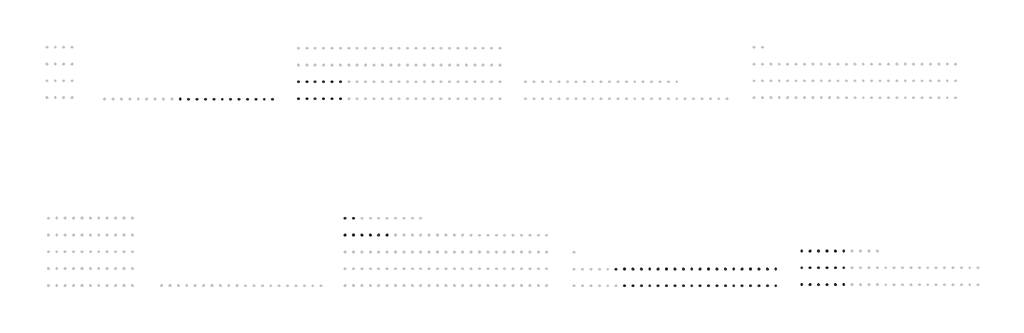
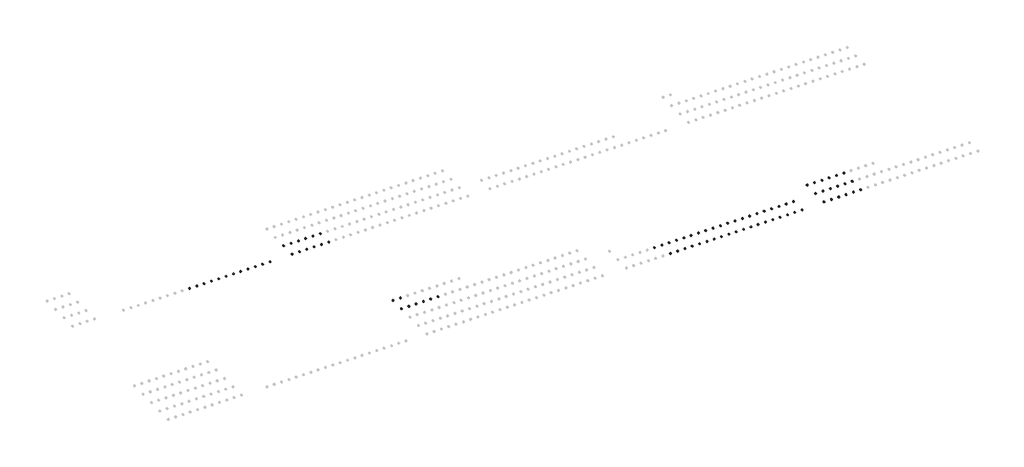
# One storey, part 9 of 18: 89 cable carrier fittings, 62 proxies.
"""IFC4 building model written with IfcOpenShell, lengths in millimetres."""

from ifc_helpers import new_model, si_unit, origin, place, context, project, spatial, transform, mapped, element, save
from components import electrical_fixtures_96b55c73, electrical_fixtures_e14fb297, electrical_fixtures_2a9b6cd9, electrical_fixtures_0dfebb09, electrical_fixtures_43cedca7, electrical_fixtures_1f2eaab9, electrical_fixtures_085c7708, electrical_fixtures_4662bf55, electrical_fixtures_95d1e48e, electrical_fixtures_3626f2ef, electrical_fixtures_4d005b9e, cable_carrier_fitting_a64d4eba

model = new_model("IFC4")

# Units and contexts
model_context = context("Model", 3, world=origin())
ifc_project = project(units=[si_unit("LENGTHUNIT", "METRE", prefix="MILLI")], contexts=[model_context])

# Site, building, storey
site = spatial("IfcSite", under=ifc_project)
building = spatial("IfcBuilding", under=site)
storey = spatial("IfcBuildingStorey", under=building, Name="Этаж 01", Elevation=0.0)

# Proxies
placement = place(None, origin())
electrical_fixtures_shape = electrical_fixtures_96b55c73(model_context)
element("IfcBuildingElementProxy", 1, Name="IEK_Brite_Механизм розетки 230В : 230 В PE+шт.+кр. IP44_РСбш10-3-44-БрА", ObjectType="IEK_Brite_Механизм розетки 230В : 230 В PE+шт.+кр. IP44_РСбш10-3-44-БрА", at=placement, inside=storey, context=model_context, shape_type="MappedRepresentation", body=[
    mapped(electrical_fixtures_shape, transform((39990.6847594, -15405.0, 0.0), x_axis=(1.0, 0.0, 0.0), y_axis=(0.0, 1.0, 0.0), z_axis=(0.0, 0.0, 1.0))),
])
element("IfcBuildingElementProxy", 2, Name="IEK_Brite_Механизм розетки 230В : 230 В PE+шт.+кр. IP44_РСбш10-3-44-БрС", ObjectType="IEK_Brite_Механизм розетки 230В : 230 В PE+шт.+кр. IP44_РСбш10-3-44-БрС", at=placement, inside=storey, context=model_context, shape_type="MappedRepresentation", body=[
    mapped(electrical_fixtures_shape, transform((40390.6847594, -15405.0, 0.0), x_axis=(1.0, 0.0, 0.0), y_axis=(0.0, 1.0, 0.0), z_axis=(0.0, 0.0, 1.0))),
])
element("IfcBuildingElementProxy", 3, Name="IEK_Brite_Механизм розетки 230В : 230 В PE+шт.+кр. IP44_РСбш10-3-44-БрГ", ObjectType="IEK_Brite_Механизм розетки 230В : 230 В PE+шт.+кр. IP44_РСбш10-3-44-БрГ", at=placement, inside=storey, context=model_context, shape_type="MappedRepresentation", body=[
    mapped(electrical_fixtures_shape, transform((40790.6847594, -15405.0, 0.0), x_axis=(1.0, 0.0, 0.0), y_axis=(0.0, 1.0, 0.0), z_axis=(0.0, 0.0, 1.0))),
])
element("IfcBuildingElementProxy", 4, Name="IEK_Brite_Механизм розетки 230В : 230 В PE+шт.+кр. IP44_РСбш10-3-44-БрМ", ObjectType="IEK_Brite_Механизм розетки 230В : 230 В PE+шт.+кр. IP44_РСбш10-3-44-БрМ", at=placement, inside=storey, context=model_context, shape_type="MappedRepresentation", body=[
    mapped(electrical_fixtures_shape, transform((41190.6847594, -15405.0, 0.0), x_axis=(1.0, 0.0, 0.0), y_axis=(0.0, 1.0, 0.0), z_axis=(0.0, 0.0, 1.0))),
])
element("IfcBuildingElementProxy", 5, Name="IEK_Brite_Механизм розетки 230В : 230 В PE+шт.+кр. IP44_РСбш10-3-44-БрТБ", ObjectType="IEK_Brite_Механизм розетки 230В : 230 В PE+шт.+кр. IP44_РСбш10-3-44-БрТБ", at=placement, inside=storey, context=model_context, shape_type="MappedRepresentation", body=[
    mapped(electrical_fixtures_shape, transform((41590.6847594, -15405.0, 0.0), x_axis=(1.0, 0.0, 0.0), y_axis=(0.0, 1.0, 0.0), z_axis=(0.0, 0.0, 1.0))),
])
element("IfcBuildingElementProxy", 6, Name="IEK_Brite_Механизм розетки 230В : 230 В PE+шт.+кр._РСбш10-3-БрБ", ObjectType="IEK_Brite_Механизм розетки 230В : 230 В PE+шт.+кр._РСбш10-3-БрБ", at=placement, inside=storey, context=model_context, shape_type="MappedRepresentation", body=[
    mapped(electrical_fixtures_shape, transform((41990.6847594, -15405.0, 0.0), x_axis=(1.0, 0.0, 0.0), y_axis=(0.0, 1.0, 0.0), z_axis=(0.0, 0.0, 1.0))),
])
electrical_fixtures_2_shape = electrical_fixtures_e14fb297(model_context)
element("IfcBuildingElementProxy", 7, Name="IEK_Brite_Механизм розетки 230В : USB A+C_РЮ11-1-БрА", ObjectType="IEK_Brite_Механизм розетки 230В : USB A+C_РЮ11-1-БрА", at=placement, inside=storey, context=model_context, shape_type="MappedRepresentation", body=[
    mapped(electrical_fixtures_2_shape, transform((39990.6847594, -14605.0, 0.0), x_axis=(1.0, 0.0, 0.0), y_axis=(0.0, 1.0, 0.0), z_axis=(0.0, 0.0, 1.0))),
])
element("IfcBuildingElementProxy", 8, Name="IEK_Brite_Механизм розетки 230В : USB A+C_РЮ11-1-БрБ", ObjectType="IEK_Brite_Механизм розетки 230В : USB A+C_РЮ11-1-БрБ", at=placement, inside=storey, context=model_context, shape_type="MappedRepresentation", body=[
    mapped(electrical_fixtures_2_shape, transform((40390.6847594, -14605.0, 0.0), x_axis=(1.0, 0.0, 0.0), y_axis=(0.0, 1.0, 0.0), z_axis=(0.0, 0.0, 1.0))),
])
electrical_fixtures_3_shape = electrical_fixtures_2a9b6cd9(model_context)
element("IfcBuildingElementProxy", 9, Name="IEK_Brite_Механизм розетки информационной : RJ45+RJ11_РК/Т12-БрС", ObjectType="IEK_Brite_Механизм розетки информационной : RJ45+RJ11_РК/Т12-БрС", at=placement, inside=storey, context=model_context, shape_type="MappedRepresentation", body=[
    mapped(electrical_fixtures_3_shape, transform((53296.7386318, -17813.0, 0.0), x_axis=(1.0, 0.0, 0.0), y_axis=(0.0, 1.0, 0.0), z_axis=(0.0, 0.0, 1.0))),
])
element("IfcBuildingElementProxy", 10, Name="IEK_Brite_Механизм розетки информационной : RJ45+RJ11_РК/Т12-БрТБ", ObjectType="IEK_Brite_Механизм розетки информационной : RJ45+RJ11_РК/Т12-БрТБ", at=placement, inside=storey, context=model_context, shape_type="MappedRepresentation", body=[
    mapped(electrical_fixtures_3_shape, transform((53696.7386318, -17813.0, 0.0), x_axis=(1.0, 0.0, 0.0), y_axis=(0.0, 1.0, 0.0), z_axis=(0.0, 0.0, 1.0))),
])
element("IfcBuildingElementProxy", 11, Name="IEK_Brite_Механизм розетки информационной : RJ45+RJ11_РК/Т12-БрЧ", ObjectType="IEK_Brite_Механизм розетки информационной : RJ45+RJ11_РК/Т12-БрЧ", at=placement, inside=storey, context=model_context, shape_type="MappedRepresentation", body=[
    mapped(electrical_fixtures_3_shape, transform((54096.7386318, -17813.0, 0.0), x_axis=(1.0, 0.0, 0.0), y_axis=(0.0, 1.0, 0.0), z_axis=(0.0, 0.0, 1.0))),
])
element("IfcBuildingElementProxy", 12, Name="IEK_Brite_Механизм розетки информационной : RJ45+RJ11_РК/Т12-БрШ", ObjectType="IEK_Brite_Механизм розетки информационной : RJ45+RJ11_РК/Т12-БрШ", at=placement, inside=storey, context=model_context, shape_type="MappedRepresentation", body=[
    mapped(electrical_fixtures_3_shape, transform((54496.7386318, -17813.0, 0.0), x_axis=(1.0, 0.0, 0.0), y_axis=(0.0, 1.0, 0.0), z_axis=(0.0, 0.0, 1.0))),
])
electrical_fixtures_4_shape = electrical_fixtures_0dfebb09(model_context)
element("IfcBuildingElementProxy", 13, Name="IEK_Brite_Механизм розетки информационной : RJ45 к5E_РК10-БрБ", ObjectType="IEK_Brite_Механизм розетки информационной : RJ45 к5E_РК10-БрБ", at=placement, inside=storey, context=model_context, shape_type="MappedRepresentation", body=[
    mapped(electrical_fixtures_4_shape, transform((53296.7386318, -17013.0, 0.0), x_axis=(1.0, 0.0, 0.0), y_axis=(0.0, 1.0, 0.0), z_axis=(0.0, 0.0, 1.0))),
])
element("IfcBuildingElementProxy", 14, Name="IEK_Brite_Механизм розетки информационной : RJ45 к5E_РК10-БрГ", ObjectType="IEK_Brite_Механизм розетки информационной : RJ45 к5E_РК10-БрГ", at=placement, inside=storey, context=model_context, shape_type="MappedRepresentation", body=[
    mapped(electrical_fixtures_4_shape, transform((53696.7386318, -17013.0, 0.0), x_axis=(1.0, 0.0, 0.0), y_axis=(0.0, 1.0, 0.0), z_axis=(0.0, 0.0, 1.0))),
])
element("IfcBuildingElementProxy", 15, Name="IEK_Brite_Механизм розетки информационной : RJ45 к5E_РК10-БрЖ", ObjectType="IEK_Brite_Механизм розетки информационной : RJ45 к5E_РК10-БрЖ", at=placement, inside=storey, context=model_context, shape_type="MappedRepresentation", body=[
    mapped(electrical_fixtures_4_shape, transform((54096.7386318, -17013.0, 0.0), x_axis=(1.0, 0.0, 0.0), y_axis=(0.0, 1.0, 0.0), z_axis=(0.0, 0.0, 1.0))),
])
element("IfcBuildingElementProxy", 16, Name="IEK_Brite_Механизм розетки информационной : RJ45 к5E_РК10-БрКр", ObjectType="IEK_Brite_Механизм розетки информационной : RJ45 к5E_РК10-БрКр", at=placement, inside=storey, context=model_context, shape_type="MappedRepresentation", body=[
    mapped(electrical_fixtures_4_shape, transform((54496.7386318, -17013.0, 0.0), x_axis=(1.0, 0.0, 0.0), y_axis=(0.0, 1.0, 0.0), z_axis=(0.0, 0.0, 1.0))),
])
element("IfcBuildingElementProxy", 17, Name="IEK_Brite_Механизм розетки информационной : RJ45 к5E_РК10-БрМ", ObjectType="IEK_Brite_Механизм розетки информационной : RJ45 к5E_РК10-БрМ", at=placement, inside=storey, context=model_context, shape_type="MappedRepresentation", body=[
    mapped(electrical_fixtures_4_shape, transform((54896.7386318, -17013.0, 0.0), x_axis=(1.0, 0.0, 0.0), y_axis=(0.0, 1.0, 0.0), z_axis=(0.0, 0.0, 1.0))),
])
element("IfcBuildingElementProxy", 18, Name="IEK_Brite_Механизм розетки информационной : RJ45 к5E_РК10-БрС", ObjectType="IEK_Brite_Механизм розетки информационной : RJ45 к5E_РК10-БрС", at=placement, inside=storey, context=model_context, shape_type="MappedRepresentation", body=[
    mapped(electrical_fixtures_4_shape, transform((55296.7386318, -17013.0, 0.0), x_axis=(1.0, 0.0, 0.0), y_axis=(0.0, 1.0, 0.0), z_axis=(0.0, 0.0, 1.0))),
])
element("IfcBuildingElementProxy", 19, Name="IEK_Brite_Механизм розетки информационной : RJ45 к5E_РК10-БрТБ", ObjectType="IEK_Brite_Механизм розетки информационной : RJ45 к5E_РК10-БрТБ", at=placement, inside=storey, context=model_context, shape_type="MappedRepresentation", body=[
    mapped(electrical_fixtures_4_shape, transform((55696.7386318, -17013.0, 0.0), x_axis=(1.0, 0.0, 0.0), y_axis=(0.0, 1.0, 0.0), z_axis=(0.0, 0.0, 1.0))),
])
element("IfcBuildingElementProxy", 20, Name="IEK_Brite_Механизм розетки информационной : RJ45 к5E_РК10-БрЧ", ObjectType="IEK_Brite_Механизм розетки информационной : RJ45 к5E_РК10-БрЧ", at=placement, inside=storey, context=model_context, shape_type="MappedRepresentation", body=[
    mapped(electrical_fixtures_4_shape, transform((56096.7386318, -17013.0, 0.0), x_axis=(1.0, 0.0, 0.0), y_axis=(0.0, 1.0, 0.0), z_axis=(0.0, 0.0, 1.0))),
])
element("IfcBuildingElementProxy", 21, Name="IEK_Brite_Механизм розетки информационной : RJ45 к5E_РК10-БрШ", ObjectType="IEK_Brite_Механизм розетки информационной : RJ45 к5E_РК10-БрШ", at=placement, inside=storey, context=model_context, shape_type="MappedRepresentation", body=[
    mapped(electrical_fixtures_4_shape, transform((56496.7386318, -17013.0, 0.0), x_axis=(1.0, 0.0, 0.0), y_axis=(0.0, 1.0, 0.0), z_axis=(0.0, 0.0, 1.0))),
])
element("IfcBuildingElementProxy", 22, Name="IEK_Brite_Механизм розетки информационной : RJ45 к6_РК11-БрА", ObjectType="IEK_Brite_Механизм розетки информационной : RJ45 к6_РК11-БрА", at=placement, inside=storey, context=model_context, shape_type="MappedRepresentation", body=[
    mapped(electrical_fixtures_4_shape, transform((56896.7386318, -17013.0, 0.0), x_axis=(1.0, 0.0, 0.0), y_axis=(0.0, 1.0, 0.0), z_axis=(0.0, 0.0, 1.0))),
])
element("IfcBuildingElementProxy", 23, Name="IEK_Brite_Механизм розетки информационной : RJ45 к6_РК11-БрБ", ObjectType="IEK_Brite_Механизм розетки информационной : RJ45 к6_РК11-БрБ", at=placement, inside=storey, context=model_context, shape_type="MappedRepresentation", body=[
    mapped(electrical_fixtures_4_shape, transform((57296.7386318, -17013.0, 0.0), x_axis=(1.0, 0.0, 0.0), y_axis=(0.0, 1.0, 0.0), z_axis=(0.0, 0.0, 1.0))),
])
element("IfcBuildingElementProxy", 24, Name="IEK_Brite_Механизм розетки информационной : RJ45 к6_РК11-БрГ", ObjectType="IEK_Brite_Механизм розетки информационной : RJ45 к6_РК11-БрГ", at=placement, inside=storey, context=model_context, shape_type="MappedRepresentation", body=[
    mapped(electrical_fixtures_4_shape, transform((57696.7386318, -17013.0, 0.0), x_axis=(1.0, 0.0, 0.0), y_axis=(0.0, 1.0, 0.0), z_axis=(0.0, 0.0, 1.0))),
])
element("IfcBuildingElementProxy", 25, Name="IEK_Brite_Механизм розетки информационной : RJ45 к6_РК11-БрЖ", ObjectType="IEK_Brite_Механизм розетки информационной : RJ45 к6_РК11-БрЖ", at=placement, inside=storey, context=model_context, shape_type="MappedRepresentation", body=[
    mapped(electrical_fixtures_4_shape, transform((58096.7386318, -17013.0, 0.0), x_axis=(1.0, 0.0, 0.0), y_axis=(0.0, 1.0, 0.0), z_axis=(0.0, 0.0, 1.0))),
])
element("IfcBuildingElementProxy", 26, Name="IEK_Brite_Механизм розетки информационной : RJ45 к6_РК11-БрКр", ObjectType="IEK_Brite_Механизм розетки информационной : RJ45 к6_РК11-БрКр", at=placement, inside=storey, context=model_context, shape_type="MappedRepresentation", body=[
    mapped(electrical_fixtures_4_shape, transform((58496.7386318, -17013.0, 0.0), x_axis=(1.0, 0.0, 0.0), y_axis=(0.0, 1.0, 0.0), z_axis=(0.0, 0.0, 1.0))),
])
element("IfcBuildingElementProxy", 27, Name="IEK_Brite_Механизм розетки информационной : RJ45 к6_РК11-БрМ", ObjectType="IEK_Brite_Механизм розетки информационной : RJ45 к6_РК11-БрМ", at=placement, inside=storey, context=model_context, shape_type="MappedRepresentation", body=[
    mapped(electrical_fixtures_4_shape, transform((58896.7386318, -17013.0, 0.0), x_axis=(1.0, 0.0, 0.0), y_axis=(0.0, 1.0, 0.0), z_axis=(0.0, 0.0, 1.0))),
])
element("IfcBuildingElementProxy", 28, Name="IEK_Brite_Механизм розетки информационной : RJ45 к6_РК11-БрС", ObjectType="IEK_Brite_Механизм розетки информационной : RJ45 к6_РК11-БрС", at=placement, inside=storey, context=model_context, shape_type="MappedRepresentation", body=[
    mapped(electrical_fixtures_4_shape, transform((59296.7386318, -17013.0, 0.0), x_axis=(1.0, 0.0, 0.0), y_axis=(0.0, 1.0, 0.0), z_axis=(0.0, 0.0, 1.0))),
])
element("IfcBuildingElementProxy", 29, Name="IEK_Brite_Механизм розетки информационной : RJ45 к6_РК11-БрТБ", ObjectType="IEK_Brite_Механизм розетки информационной : RJ45 к6_РК11-БрТБ", at=placement, inside=storey, context=model_context, shape_type="MappedRepresentation", body=[
    mapped(electrical_fixtures_4_shape, transform((59696.7386318, -17013.0, 0.0), x_axis=(1.0, 0.0, 0.0), y_axis=(0.0, 1.0, 0.0), z_axis=(0.0, 0.0, 1.0))),
])
element("IfcBuildingElementProxy", 30, Name="IEK_Brite_Механизм розетки информационной : RJ45 к6_РК11-БрЧ", ObjectType="IEK_Brite_Механизм розетки информационной : RJ45 к6_РК11-БрЧ", at=placement, inside=storey, context=model_context, shape_type="MappedRepresentation", body=[
    mapped(electrical_fixtures_4_shape, transform((60096.7386318, -17013.0, 0.0), x_axis=(1.0, 0.0, 0.0), y_axis=(0.0, 1.0, 0.0), z_axis=(0.0, 0.0, 1.0))),
])
element("IfcBuildingElementProxy", 31, Name="IEK_Brite_Механизм розетки информационной : RJ45 к6_РК11-БрШ", ObjectType="IEK_Brite_Механизм розетки информационной : RJ45 к6_РК11-БрШ", at=placement, inside=storey, context=model_context, shape_type="MappedRepresentation", body=[
    mapped(electrical_fixtures_4_shape, transform((60496.7386318, -17013.0, 0.0), x_axis=(1.0, 0.0, 0.0), y_axis=(0.0, 1.0, 0.0), z_axis=(0.0, 0.0, 1.0))),
])
electrical_fixtures_5_shape = electrical_fixtures_43cedca7(model_context)
element("IfcBuildingElementProxy", 32, Name="IEK_Brite_Механизм розетки мультимедийной : АС_РА10-БрА", ObjectType="IEK_Brite_Механизм розетки мультимедийной : АС_РА10-БрА", at=placement, inside=storey, context=model_context, shape_type="MappedRepresentation", body=[
    mapped(electrical_fixtures_5_shape, transform((61736.4805226, -17760.0, 0.0), x_axis=(1.0, 0.0, 0.0), y_axis=(0.0, 1.0, 0.0), z_axis=(0.0, 0.0, 1.0))),
])
element("IfcBuildingElementProxy", 33, Name="IEK_Brite_Механизм розетки мультимедийной : АС_РА10-БрБ", ObjectType="IEK_Brite_Механизм розетки мультимедийной : АС_РА10-БрБ", at=placement, inside=storey, context=model_context, shape_type="MappedRepresentation", body=[
    mapped(electrical_fixtures_5_shape, transform((62136.4805226, -17760.0, 0.0), x_axis=(1.0, 0.0, 0.0), y_axis=(0.0, 1.0, 0.0), z_axis=(0.0, 0.0, 1.0))),
])
element("IfcBuildingElementProxy", 34, Name="IEK_Brite_Механизм розетки мультимедийной : АС_РА10-БрГ", ObjectType="IEK_Brite_Механизм розетки мультимедийной : АС_РА10-БрГ", at=placement, inside=storey, context=model_context, shape_type="MappedRepresentation", body=[
    mapped(electrical_fixtures_5_shape, transform((62536.4805226, -17760.0, 0.0), x_axis=(1.0, 0.0, 0.0), y_axis=(0.0, 1.0, 0.0), z_axis=(0.0, 0.0, 1.0))),
])
element("IfcBuildingElementProxy", 35, Name="IEK_Brite_Механизм розетки мультимедийной : АС_РА10-БрЖ", ObjectType="IEK_Brite_Механизм розетки мультимедийной : АС_РА10-БрЖ", at=placement, inside=storey, context=model_context, shape_type="MappedRepresentation", body=[
    mapped(electrical_fixtures_5_shape, transform((62936.4805226, -17760.0, 0.0), x_axis=(1.0, 0.0, 0.0), y_axis=(0.0, 1.0, 0.0), z_axis=(0.0, 0.0, 1.0))),
])
element("IfcBuildingElementProxy", 36, Name="IEK_Brite_Механизм розетки мультимедийной : АС_РА10-БрКр", ObjectType="IEK_Brite_Механизм розетки мультимедийной : АС_РА10-БрКр", at=placement, inside=storey, context=model_context, shape_type="MappedRepresentation", body=[
    mapped(electrical_fixtures_5_shape, transform((63336.4805226, -17760.0, 0.0), x_axis=(1.0, 0.0, 0.0), y_axis=(0.0, 1.0, 0.0), z_axis=(0.0, 0.0, 1.0))),
])
element("IfcBuildingElementProxy", 37, Name="IEK_Brite_Механизм розетки мультимедийной : АС_РА10-БрМ", ObjectType="IEK_Brite_Механизм розетки мультимедийной : АС_РА10-БрМ", at=placement, inside=storey, context=model_context, shape_type="MappedRepresentation", body=[
    mapped(electrical_fixtures_5_shape, transform((63736.4805226, -17760.0, 0.0), x_axis=(1.0, 0.0, 0.0), y_axis=(0.0, 1.0, 0.0), z_axis=(0.0, 0.0, 1.0))),
])
electrical_fixtures_6_shape = electrical_fixtures_1f2eaab9(model_context)
element("IfcBuildingElementProxy", 38, Name="IEK_Brite_Механизм розетки мультимедийной : TV О_РТВ11-0-БрМ", ObjectType="IEK_Brite_Механизм розетки мультимедийной : TV О_РТВ11-0-БрМ", at=placement, inside=storey, context=model_context, shape_type="MappedRepresentation", body=[
    mapped(electrical_fixtures_6_shape, transform((61736.4805226, -16960.0, 0.0), x_axis=(1.0, 0.0, 0.0), y_axis=(0.0, 1.0, 0.0), z_axis=(0.0, 0.0, 1.0))),
])
element("IfcBuildingElementProxy", 39, Name="IEK_Brite_Механизм розетки мультимедийной : TV О_РТВ11-0-БрС", ObjectType="IEK_Brite_Механизм розетки мультимедийной : TV О_РТВ11-0-БрС", at=placement, inside=storey, context=model_context, shape_type="MappedRepresentation", body=[
    mapped(electrical_fixtures_6_shape, transform((62136.4805226, -16960.0, 0.0), x_axis=(1.0, 0.0, 0.0), y_axis=(0.0, 1.0, 0.0), z_axis=(0.0, 0.0, 1.0))),
])
element("IfcBuildingElementProxy", 40, Name="IEK_Brite_Механизм розетки мультимедийной : TV О_РТВ11-0-БрТБ", ObjectType="IEK_Brite_Механизм розетки мультимедийной : TV О_РТВ11-0-БрТБ", at=placement, inside=storey, context=model_context, shape_type="MappedRepresentation", body=[
    mapped(electrical_fixtures_6_shape, transform((62536.4805226, -16960.0, 0.0), x_axis=(1.0, 0.0, 0.0), y_axis=(0.0, 1.0, 0.0), z_axis=(0.0, 0.0, 1.0))),
])
element("IfcBuildingElementProxy", 41, Name="IEK_Brite_Механизм розетки мультимедийной : TV О_РТВ11-0-БрЧ", ObjectType="IEK_Brite_Механизм розетки мультимедийной : TV О_РТВ11-0-БрЧ", at=placement, inside=storey, context=model_context, shape_type="MappedRepresentation", body=[
    mapped(electrical_fixtures_6_shape, transform((62936.4805226, -16960.0, 0.0), x_axis=(1.0, 0.0, 0.0), y_axis=(0.0, 1.0, 0.0), z_axis=(0.0, 0.0, 1.0))),
])
element("IfcBuildingElementProxy", 42, Name="IEK_Brite_Механизм розетки мультимедийной : TV О_РТВ11-0-БрШ", ObjectType="IEK_Brite_Механизм розетки мультимедийной : TV О_РТВ11-0-БрШ", at=placement, inside=storey, context=model_context, shape_type="MappedRepresentation", body=[
    mapped(electrical_fixtures_6_shape, transform((63336.4805226, -16960.0, 0.0), x_axis=(1.0, 0.0, 0.0), y_axis=(0.0, 1.0, 0.0), z_axis=(0.0, 0.0, 1.0))),
])
element("IfcBuildingElementProxy", 43, Name="IEK_Brite_Механизм розетки мультимедийной : TV П_РТВ10-0-БрА", ObjectType="IEK_Brite_Механизм розетки мультимедийной : TV П_РТВ10-0-БрА", at=placement, inside=storey, context=model_context, shape_type="MappedRepresentation", body=[
    mapped(electrical_fixtures_6_shape, transform((63736.4805226, -16960.0, 0.0), x_axis=(1.0, 0.0, 0.0), y_axis=(0.0, 1.0, 0.0), z_axis=(0.0, 0.0, 1.0))),
])
electrical_fixtures_7_shape = electrical_fixtures_085c7708(model_context)
element("IfcBuildingElementProxy", 44, Name="IEK_Brite_Механизм розетки мультимедийной : TV+SAT-РТВ/РСп12-БрБ", ObjectType="IEK_Brite_Механизм розетки мультимедийной : TV+SAT-РТВ/РСп12-БрБ", at=placement, inside=storey, context=model_context, shape_type="MappedRepresentation", body=[
    mapped(electrical_fixtures_7_shape, transform((61736.4805226, -16160.0, 0.0), x_axis=(1.0, 0.0, 0.0), y_axis=(0.0, 1.0, 0.0), z_axis=(0.0, 0.0, 1.0))),
])
element("IfcBuildingElementProxy", 45, Name="IEK_Brite_Механизм розетки мультимедийной : TV+SAT-РТВ/РСп12-БрГ", ObjectType="IEK_Brite_Механизм розетки мультимедийной : TV+SAT-РТВ/РСп12-БрГ", at=placement, inside=storey, context=model_context, shape_type="MappedRepresentation", body=[
    mapped(electrical_fixtures_7_shape, transform((62136.4805226, -16160.0, 0.0), x_axis=(1.0, 0.0, 0.0), y_axis=(0.0, 1.0, 0.0), z_axis=(0.0, 0.0, 1.0))),
])
element("IfcBuildingElementProxy", 46, Name="IEK_Brite_Механизм розетки мультимедийной : TV+SAT-РТВ/РСп12-БрЖ", ObjectType="IEK_Brite_Механизм розетки мультимедийной : TV+SAT-РТВ/РСп12-БрЖ", at=placement, inside=storey, context=model_context, shape_type="MappedRepresentation", body=[
    mapped(electrical_fixtures_7_shape, transform((62536.4805226, -16160.0, 0.0), x_axis=(1.0, 0.0, 0.0), y_axis=(0.0, 1.0, 0.0), z_axis=(0.0, 0.0, 1.0))),
])
element("IfcBuildingElementProxy", 47, Name="IEK_Brite_Механизм розетки мультимедийной : TV+SAT-РТВ/РСп12-БрКр", ObjectType="IEK_Brite_Механизм розетки мультимедийной : TV+SAT-РТВ/РСп12-БрКр", at=placement, inside=storey, context=model_context, shape_type="MappedRepresentation", body=[
    mapped(electrical_fixtures_7_shape, transform((62936.4805226, -16160.0, 0.0), x_axis=(1.0, 0.0, 0.0), y_axis=(0.0, 1.0, 0.0), z_axis=(0.0, 0.0, 1.0))),
])
element("IfcBuildingElementProxy", 48, Name="IEK_Brite_Механизм розетки мультимедийной : TV+SAT-РТВ/РСп12-БрМ", ObjectType="IEK_Brite_Механизм розетки мультимедийной : TV+SAT-РТВ/РСп12-БрМ", at=placement, inside=storey, context=model_context, shape_type="MappedRepresentation", body=[
    mapped(electrical_fixtures_7_shape, transform((63336.4805226, -16160.0, 0.0), x_axis=(1.0, 0.0, 0.0), y_axis=(0.0, 1.0, 0.0), z_axis=(0.0, 0.0, 1.0))),
])
element("IfcBuildingElementProxy", 49, Name="IEK_Brite_Механизм розетки мультимедийной : TV+SAT-РТВ/РСп12-БрС", ObjectType="IEK_Brite_Механизм розетки мультимедийной : TV+SAT-РТВ/РСп12-БрС", at=placement, inside=storey, context=model_context, shape_type="MappedRepresentation", body=[
    mapped(electrical_fixtures_7_shape, transform((63736.4805226, -16160.0, 0.0), x_axis=(1.0, 0.0, 0.0), y_axis=(0.0, 1.0, 0.0), z_axis=(0.0, 0.0, 1.0))),
])
electrical_fixtures_8_shape = electrical_fixtures_4662bf55(model_context)
element("IfcBuildingElementProxy", 50, Name="IEK_Skandy_Механизм подсветки, вывод кабеля : ВК_SK-O01T", ObjectType="IEK_Skandy_Механизм подсветки, вывод кабеля : ВК_SK-O01T", at=placement, inside=storey, context=model_context, shape_type="MappedRepresentation", body=[
    mapped(electrical_fixtures_8_shape, transform((32141.0593058, -8925.0, 0.0), x_axis=(1.0, 0.0, 0.0), y_axis=(0.0, 1.0, 0.0), z_axis=(0.0, 0.0, 1.0))),
])
electrical_fixtures_9_shape = electrical_fixtures_95d1e48e(model_context)
element("IfcBuildingElementProxy", 51, Name="IEK_Skandy_Механизм розетки 230В : USB A+C_SK-R14S", ObjectType="IEK_Skandy_Механизм розетки 230В : USB A+C_SK-R14S", at=placement, inside=storey, context=model_context, shape_type="MappedRepresentation", body=[
    mapped(electrical_fixtures_9_shape, transform((37767.0534633, -8105.0, 0.0), x_axis=(1.0, 0.0, 0.0), y_axis=(0.0, 1.0, 0.0), z_axis=(0.0, 0.0, 1.0))),
])
element("IfcBuildingElementProxy", 52, Name="IEK_Skandy_Механизм розетки 230В : USB A+C_SK-R14Sa", ObjectType="IEK_Skandy_Механизм розетки 230В : USB A+C_SK-R14Sa", at=placement, inside=storey, context=model_context, shape_type="MappedRepresentation", body=[
    mapped(electrical_fixtures_9_shape, transform((38167.0534633, -8105.0, 0.0), x_axis=(1.0, 0.0, 0.0), y_axis=(0.0, 1.0, 0.0), z_axis=(0.0, 0.0, 1.0))),
])
element("IfcBuildingElementProxy", 53, Name="IEK_Skandy_Механизм розетки 230В : USB A+C_SK-R14Sh", ObjectType="IEK_Skandy_Механизм розетки 230В : USB A+C_SK-R14Sh", at=placement, inside=storey, context=model_context, shape_type="MappedRepresentation", body=[
    mapped(electrical_fixtures_9_shape, transform((38567.0534633, -8105.0, 0.0), x_axis=(1.0, 0.0, 0.0), y_axis=(0.0, 1.0, 0.0), z_axis=(0.0, 0.0, 1.0))),
])
element("IfcBuildingElementProxy", 54, Name="IEK_Skandy_Механизм розетки 230В : USB A+C_SK-R14T", ObjectType="IEK_Skandy_Механизм розетки 230В : USB A+C_SK-R14T", at=placement, inside=storey, context=model_context, shape_type="MappedRepresentation", body=[
    mapped(electrical_fixtures_9_shape, transform((38967.0534633, -8105.0, 0.0), x_axis=(1.0, 0.0, 0.0), y_axis=(0.0, 1.0, 0.0), z_axis=(0.0, 0.0, 1.0))),
])
element("IfcBuildingElementProxy", 55, Name="IEK_Skandy_Механизм розетки 230В : USB A+C_SK-R14W", ObjectType="IEK_Skandy_Механизм розетки 230В : USB A+C_SK-R14W", at=placement, inside=storey, context=model_context, shape_type="MappedRepresentation", body=[
    mapped(electrical_fixtures_9_shape, transform((39367.0534633, -8105.0, 0.0), x_axis=(1.0, 0.0, 0.0), y_axis=(0.0, 1.0, 0.0), z_axis=(0.0, 0.0, 1.0))),
])
electrical_fixtures_10_shape = electrical_fixtures_3626f2ef(model_context)
element("IfcBuildingElementProxy", 56, Name="IEK_Skandy_Механизм розетки 230В : 230 В+шт._SK-R01B", ObjectType="IEK_Skandy_Механизм розетки 230В : 230 В+шт._SK-R01B", at=placement, inside=storey, context=model_context, shape_type="MappedRepresentation", body=[
    mapped(electrical_fixtures_10_shape, transform((39767.0534633, -8105.0, 0.0), x_axis=(1.0, 0.0, 0.0), y_axis=(0.0, 1.0, 0.0), z_axis=(0.0, 0.0, 1.0))),
])
electrical_fixtures_11_shape = electrical_fixtures_4d005b9e(model_context)
element("IfcBuildingElementProxy", 57, Name="IEK_Skandy_Механизм розетки 230В : USB A+A_SK-R15B", ObjectType="IEK_Skandy_Механизм розетки 230В : USB A+A_SK-R15B", at=placement, inside=storey, context=model_context, shape_type="MappedRepresentation", body=[
    mapped(electrical_fixtures_11_shape, transform((37767.0534633, -8905.0, 0.0), x_axis=(1.0, 0.0, 0.0), y_axis=(0.0, 1.0, 0.0), z_axis=(0.0, 0.0, 1.0))),
])
element("IfcBuildingElementProxy", 58, Name="IEK_Skandy_Механизм розетки 230В : USB A+A_SK-R15Bl", ObjectType="IEK_Skandy_Механизм розетки 230В : USB A+A_SK-R15Bl", at=placement, inside=storey, context=model_context, shape_type="MappedRepresentation", body=[
    mapped(electrical_fixtures_11_shape, transform((38167.0534633, -8905.0, 0.0), x_axis=(1.0, 0.0, 0.0), y_axis=(0.0, 1.0, 0.0), z_axis=(0.0, 0.0, 1.0))),
])
element("IfcBuildingElementProxy", 59, Name="IEK_Skandy_Механизм розетки 230В : USB A+A_SK-R15G", ObjectType="IEK_Skandy_Механизм розетки 230В : USB A+A_SK-R15G", at=placement, inside=storey, context=model_context, shape_type="MappedRepresentation", body=[
    mapped(electrical_fixtures_11_shape, transform((38567.0534633, -8905.0, 0.0), x_axis=(1.0, 0.0, 0.0), y_axis=(0.0, 1.0, 0.0), z_axis=(0.0, 0.0, 1.0))),
])
element("IfcBuildingElementProxy", 60, Name="IEK_Skandy_Механизм розетки 230В : USB A+A_SK-R15Gr", ObjectType="IEK_Skandy_Механизм розетки 230В : USB A+A_SK-R15Gr", at=placement, inside=storey, context=model_context, shape_type="MappedRepresentation", body=[
    mapped(electrical_fixtures_11_shape, transform((38967.0534633, -8905.0, 0.0), x_axis=(1.0, 0.0, 0.0), y_axis=(0.0, 1.0, 0.0), z_axis=(0.0, 0.0, 1.0))),
])
element("IfcBuildingElementProxy", 61, Name="IEK_Skandy_Механизм розетки 230В : USB A+A_SK-R15M", ObjectType="IEK_Skandy_Механизм розетки 230В : USB A+A_SK-R15M", at=placement, inside=storey, context=model_context, shape_type="MappedRepresentation", body=[
    mapped(electrical_fixtures_11_shape, transform((39367.0534633, -8905.0, 0.0), x_axis=(1.0, 0.0, 0.0), y_axis=(0.0, 1.0, 0.0), z_axis=(0.0, 0.0, 1.0))),
])
element("IfcBuildingElementProxy", 62, Name="IEK_Skandy_Механизм розетки 230В : USB A+A_SK-R15S", ObjectType="IEK_Skandy_Механизм розетки 230В : USB A+A_SK-R15S", at=placement, inside=storey, context=model_context, shape_type="MappedRepresentation", body=[
    mapped(electrical_fixtures_11_shape, transform((39767.0534633, -8905.0, 0.0), x_axis=(1.0, 0.0, 0.0), y_axis=(0.0, 1.0, 0.0), z_axis=(0.0, 0.0, 1.0))),
])

# Cable carrier fittings
cable_carrier_fitting_shape = cable_carrier_fitting_a64d4eba(model_context)
element("IfcCableCarrierFitting", 63, ObjectType="IEK_Коробка монтажная : стены_полые", at=placement, inside=storey, context=model_context, shape_type="MappedRepresentation", body=[
    mapped(cable_carrier_fitting_shape, transform((53296.7386318, -17813.0, 0.0), x_axis=(1.0, 0.0, 0.0), y_axis=(0.0, 1.0, 0.0), z_axis=(0.0, 0.0, 1.0))),
])
element("IfcCableCarrierFitting", 64, ObjectType="IEK_Коробка монтажная : стены_полые", at=placement, inside=storey, context=model_context, shape_type="MappedRepresentation", body=[
    mapped(cable_carrier_fitting_shape, transform((53696.7386318, -17813.0, 0.0), x_axis=(1.0, 0.0, 0.0), y_axis=(0.0, 1.0, 0.0), z_axis=(0.0, 0.0, 1.0))),
])
element("IfcCableCarrierFitting", 65, ObjectType="IEK_Коробка монтажная : стены_полые", at=placement, inside=storey, context=model_context, shape_type="MappedRepresentation", body=[
    mapped(cable_carrier_fitting_shape, transform((54096.7386318, -17813.0, 0.0), x_axis=(1.0, 0.0, 0.0), y_axis=(0.0, 1.0, 0.0), z_axis=(0.0, 0.0, 1.0))),
])
element("IfcCableCarrierFitting", 66, ObjectType="IEK_Коробка монтажная : стены_полые", at=placement, inside=storey, context=model_context, shape_type="MappedRepresentation", body=[
    mapped(cable_carrier_fitting_shape, transform((54496.7386318, -17813.0, 0.0), x_axis=(1.0, 0.0, 0.0), y_axis=(0.0, 1.0, 0.0), z_axis=(0.0, 0.0, 1.0))),
])
element("IfcCableCarrierFitting", 67, ObjectType="IEK_Коробка монтажная : стены_полые", at=placement, inside=storey, context=model_context, shape_type="MappedRepresentation", body=[
    mapped(cable_carrier_fitting_shape, transform((54896.7386318, -17813.0, 0.0), x_axis=(1.0, 0.0, 0.0), y_axis=(0.0, 1.0, 0.0), z_axis=(0.0, 0.0, 1.0))),
])
element("IfcCableCarrierFitting", 68, ObjectType="IEK_Коробка монтажная : стены_полые", at=placement, inside=storey, context=model_context, shape_type="MappedRepresentation", body=[
    mapped(cable_carrier_fitting_shape, transform((55296.7386318, -17813.0, 0.0), x_axis=(1.0, 0.0, 0.0), y_axis=(0.0, 1.0, 0.0), z_axis=(0.0, 0.0, 1.0))),
])
element("IfcCableCarrierFitting", 69, ObjectType="IEK_Коробка монтажная : стены_полые", at=placement, inside=storey, context=model_context, shape_type="MappedRepresentation", body=[
    mapped(cable_carrier_fitting_shape, transform((55696.7386318, -17813.0, 0.0), x_axis=(1.0, 0.0, 0.0), y_axis=(0.0, 1.0, 0.0), z_axis=(0.0, 0.0, 1.0))),
])
element("IfcCableCarrierFitting", 70, ObjectType="IEK_Коробка монтажная : стены_полые", at=placement, inside=storey, context=model_context, shape_type="MappedRepresentation", body=[
    mapped(cable_carrier_fitting_shape, transform((56096.7386318, -17813.0, 0.0), x_axis=(1.0, 0.0, 0.0), y_axis=(0.0, 1.0, 0.0), z_axis=(0.0, 0.0, 1.0))),
])
element("IfcCableCarrierFitting", 71, ObjectType="IEK_Коробка монтажная : стены_полые", at=placement, inside=storey, context=model_context, shape_type="MappedRepresentation", body=[
    mapped(cable_carrier_fitting_shape, transform((56496.7386318, -17813.0, 0.0), x_axis=(1.0, 0.0, 0.0), y_axis=(0.0, 1.0, 0.0), z_axis=(0.0, 0.0, 1.0))),
])
element("IfcCableCarrierFitting", 72, ObjectType="IEK_Коробка монтажная : стены_полые", at=placement, inside=storey, context=model_context, shape_type="MappedRepresentation", body=[
    mapped(cable_carrier_fitting_shape, transform((56896.7386318, -17813.0, 0.0), x_axis=(1.0, 0.0, 0.0), y_axis=(0.0, 1.0, 0.0), z_axis=(0.0, 0.0, 1.0))),
])
element("IfcCableCarrierFitting", 73, ObjectType="IEK_Коробка монтажная : стены_полые", at=placement, inside=storey, context=model_context, shape_type="MappedRepresentation", body=[
    mapped(cable_carrier_fitting_shape, transform((57296.7386318, -17813.0, 0.0), x_axis=(1.0, 0.0, 0.0), y_axis=(0.0, 1.0, 0.0), z_axis=(0.0, 0.0, 1.0))),
])
element("IfcCableCarrierFitting", 74, ObjectType="IEK_Коробка монтажная : стены_полые", at=placement, inside=storey, context=model_context, shape_type="MappedRepresentation", body=[
    mapped(cable_carrier_fitting_shape, transform((57696.7386318, -17813.0, 0.0), x_axis=(1.0, 0.0, 0.0), y_axis=(0.0, 1.0, 0.0), z_axis=(0.0, 0.0, 1.0))),
])
element("IfcCableCarrierFitting", 75, ObjectType="IEK_Коробка монтажная : стены_полые", at=placement, inside=storey, context=model_context, shape_type="MappedRepresentation", body=[
    mapped(cable_carrier_fitting_shape, transform((58096.7386318, -17813.0, 0.0), x_axis=(1.0, 0.0, 0.0), y_axis=(0.0, 1.0, 0.0), z_axis=(0.0, 0.0, 1.0))),
])
element("IfcCableCarrierFitting", 76, ObjectType="IEK_Коробка монтажная : стены_полые", at=placement, inside=storey, context=model_context, shape_type="MappedRepresentation", body=[
    mapped(cable_carrier_fitting_shape, transform((58496.7386318, -17813.0, 0.0), x_axis=(1.0, 0.0, 0.0), y_axis=(0.0, 1.0, 0.0), z_axis=(0.0, 0.0, 1.0))),
])
element("IfcCableCarrierFitting", 77, ObjectType="IEK_Коробка монтажная : стены_полые", at=placement, inside=storey, context=model_context, shape_type="MappedRepresentation", body=[
    mapped(cable_carrier_fitting_shape, transform((58896.7386318, -17813.0, 0.0), x_axis=(1.0, 0.0, 0.0), y_axis=(0.0, 1.0, 0.0), z_axis=(0.0, 0.0, 1.0))),
])
element("IfcCableCarrierFitting", 78, ObjectType="IEK_Коробка монтажная : стены_полые", at=placement, inside=storey, context=model_context, shape_type="MappedRepresentation", body=[
    mapped(cable_carrier_fitting_shape, transform((59296.7386318, -17813.0, 0.0), x_axis=(1.0, 0.0, 0.0), y_axis=(0.0, 1.0, 0.0), z_axis=(0.0, 0.0, 1.0))),
])
element("IfcCableCarrierFitting", 79, ObjectType="IEK_Коробка монтажная : стены_полые", at=placement, inside=storey, context=model_context, shape_type="MappedRepresentation", body=[
    mapped(cable_carrier_fitting_shape, transform((59696.7386318, -17813.0, 0.0), x_axis=(1.0, 0.0, 0.0), y_axis=(0.0, 1.0, 0.0), z_axis=(0.0, 0.0, 1.0))),
])
element("IfcCableCarrierFitting", 80, ObjectType="IEK_Коробка монтажная : стены_полые", at=placement, inside=storey, context=model_context, shape_type="MappedRepresentation", body=[
    mapped(cable_carrier_fitting_shape, transform((60096.7386318, -17813.0, 0.0), x_axis=(1.0, 0.0, 0.0), y_axis=(0.0, 1.0, 0.0), z_axis=(0.0, 0.0, 1.0))),
])
element("IfcCableCarrierFitting", 81, ObjectType="IEK_Коробка монтажная : стены_полые", at=placement, inside=storey, context=model_context, shape_type="MappedRepresentation", body=[
    mapped(cable_carrier_fitting_shape, transform((60496.7386318, -17813.0, 0.0), x_axis=(1.0, 0.0, 0.0), y_axis=(0.0, 1.0, 0.0), z_axis=(0.0, 0.0, 1.0))),
])
element("IfcCableCarrierFitting", 82, ObjectType="IEK_Коробка монтажная : стены_полые", at=placement, inside=storey, context=model_context, shape_type="MappedRepresentation", body=[
    mapped(cable_carrier_fitting_shape, transform((52896.7386318, -17013.0, 0.0), x_axis=(1.0, 0.0, 0.0), y_axis=(0.0, 1.0, 0.0), z_axis=(0.0, 0.0, 1.0))),
])
element("IfcCableCarrierFitting", 83, ObjectType="IEK_Коробка монтажная : стены_полые", at=placement, inside=storey, context=model_context, shape_type="MappedRepresentation", body=[
    mapped(cable_carrier_fitting_shape, transform((53296.7386318, -17013.0, 0.0), x_axis=(1.0, 0.0, 0.0), y_axis=(0.0, 1.0, 0.0), z_axis=(0.0, 0.0, 1.0))),
])
element("IfcCableCarrierFitting", 84, ObjectType="IEK_Коробка монтажная : стены_полые", at=placement, inside=storey, context=model_context, shape_type="MappedRepresentation", body=[
    mapped(cable_carrier_fitting_shape, transform((53696.7386318, -17013.0, 0.0), x_axis=(1.0, 0.0, 0.0), y_axis=(0.0, 1.0, 0.0), z_axis=(0.0, 0.0, 1.0))),
])
element("IfcCableCarrierFitting", 85, ObjectType="IEK_Коробка монтажная : стены_полые", at=placement, inside=storey, context=model_context, shape_type="MappedRepresentation", body=[
    mapped(cable_carrier_fitting_shape, transform((54096.7386318, -17013.0, 0.0), x_axis=(1.0, 0.0, 0.0), y_axis=(0.0, 1.0, 0.0), z_axis=(0.0, 0.0, 1.0))),
])
element("IfcCableCarrierFitting", 86, ObjectType="IEK_Коробка монтажная : стены_полые", at=placement, inside=storey, context=model_context, shape_type="MappedRepresentation", body=[
    mapped(cable_carrier_fitting_shape, transform((54496.7386318, -17013.0, 0.0), x_axis=(1.0, 0.0, 0.0), y_axis=(0.0, 1.0, 0.0), z_axis=(0.0, 0.0, 1.0))),
])
element("IfcCableCarrierFitting", 87, ObjectType="IEK_Коробка монтажная : стены_полые", at=placement, inside=storey, context=model_context, shape_type="MappedRepresentation", body=[
    mapped(cable_carrier_fitting_shape, transform((54896.7386318, -17013.0, 0.0), x_axis=(1.0, 0.0, 0.0), y_axis=(0.0, 1.0, 0.0), z_axis=(0.0, 0.0, 1.0))),
])
element("IfcCableCarrierFitting", 88, ObjectType="IEK_Коробка монтажная : стены_полые", at=placement, inside=storey, context=model_context, shape_type="MappedRepresentation", body=[
    mapped(cable_carrier_fitting_shape, transform((55296.7386318, -17013.0, 0.0), x_axis=(1.0, 0.0, 0.0), y_axis=(0.0, 1.0, 0.0), z_axis=(0.0, 0.0, 1.0))),
])
element("IfcCableCarrierFitting", 89, ObjectType="IEK_Коробка монтажная : стены_полые", at=placement, inside=storey, context=model_context, shape_type="MappedRepresentation", body=[
    mapped(cable_carrier_fitting_shape, transform((55696.7386318, -17013.0, 0.0), x_axis=(1.0, 0.0, 0.0), y_axis=(0.0, 1.0, 0.0), z_axis=(0.0, 0.0, 1.0))),
])
element("IfcCableCarrierFitting", 90, ObjectType="IEK_Коробка монтажная : стены_полые", at=placement, inside=storey, context=model_context, shape_type="MappedRepresentation", body=[
    mapped(cable_carrier_fitting_shape, transform((56096.7386318, -17013.0, 0.0), x_axis=(1.0, 0.0, 0.0), y_axis=(0.0, 1.0, 0.0), z_axis=(0.0, 0.0, 1.0))),
])
element("IfcCableCarrierFitting", 91, ObjectType="IEK_Коробка монтажная : стены_полые", at=placement, inside=storey, context=model_context, shape_type="MappedRepresentation", body=[
    mapped(cable_carrier_fitting_shape, transform((56496.7386318, -17013.0, 0.0), x_axis=(1.0, 0.0, 0.0), y_axis=(0.0, 1.0, 0.0), z_axis=(0.0, 0.0, 1.0))),
])
element("IfcCableCarrierFitting", 92, ObjectType="IEK_Коробка монтажная : стены_полые", at=placement, inside=storey, context=model_context, shape_type="MappedRepresentation", body=[
    mapped(cable_carrier_fitting_shape, transform((56896.7386318, -17013.0, 0.0), x_axis=(1.0, 0.0, 0.0), y_axis=(0.0, 1.0, 0.0), z_axis=(0.0, 0.0, 1.0))),
])
element("IfcCableCarrierFitting", 93, ObjectType="IEK_Коробка монтажная : стены_полые", at=placement, inside=storey, context=model_context, shape_type="MappedRepresentation", body=[
    mapped(cable_carrier_fitting_shape, transform((57296.7386318, -17013.0, 0.0), x_axis=(1.0, 0.0, 0.0), y_axis=(0.0, 1.0, 0.0), z_axis=(0.0, 0.0, 1.0))),
])
element("IfcCableCarrierFitting", 94, ObjectType="IEK_Коробка монтажная : стены_полые", at=placement, inside=storey, context=model_context, shape_type="MappedRepresentation", body=[
    mapped(cable_carrier_fitting_shape, transform((57696.7386318, -17013.0, 0.0), x_axis=(1.0, 0.0, 0.0), y_axis=(0.0, 1.0, 0.0), z_axis=(0.0, 0.0, 1.0))),
])
element("IfcCableCarrierFitting", 95, ObjectType="IEK_Коробка монтажная : стены_полые", at=placement, inside=storey, context=model_context, shape_type="MappedRepresentation", body=[
    mapped(cable_carrier_fitting_shape, transform((58096.7386318, -17013.0, 0.0), x_axis=(1.0, 0.0, 0.0), y_axis=(0.0, 1.0, 0.0), z_axis=(0.0, 0.0, 1.0))),
])
element("IfcCableCarrierFitting", 96, ObjectType="IEK_Коробка монтажная : стены_полые", at=placement, inside=storey, context=model_context, shape_type="MappedRepresentation", body=[
    mapped(cable_carrier_fitting_shape, transform((58496.7386318, -17013.0, 0.0), x_axis=(1.0, 0.0, 0.0), y_axis=(0.0, 1.0, 0.0), z_axis=(0.0, 0.0, 1.0))),
])
element("IfcCableCarrierFitting", 97, ObjectType="IEK_Коробка монтажная : стены_полые", at=placement, inside=storey, context=model_context, shape_type="MappedRepresentation", body=[
    mapped(cable_carrier_fitting_shape, transform((58896.7386318, -17013.0, 0.0), x_axis=(1.0, 0.0, 0.0), y_axis=(0.0, 1.0, 0.0), z_axis=(0.0, 0.0, 1.0))),
])
element("IfcCableCarrierFitting", 98, ObjectType="IEK_Коробка монтажная : стены_полые", at=placement, inside=storey, context=model_context, shape_type="MappedRepresentation", body=[
    mapped(cable_carrier_fitting_shape, transform((59296.7386318, -17013.0, 0.0), x_axis=(1.0, 0.0, 0.0), y_axis=(0.0, 1.0, 0.0), z_axis=(0.0, 0.0, 1.0))),
])
element("IfcCableCarrierFitting", 99, ObjectType="IEK_Коробка монтажная : стены_полые", at=placement, inside=storey, context=model_context, shape_type="MappedRepresentation", body=[
    mapped(cable_carrier_fitting_shape, transform((59696.7386318, -17013.0, 0.0), x_axis=(1.0, 0.0, 0.0), y_axis=(0.0, 1.0, 0.0), z_axis=(0.0, 0.0, 1.0))),
])
element("IfcCableCarrierFitting", 100, ObjectType="IEK_Коробка монтажная : стены_полые", at=placement, inside=storey, context=model_context, shape_type="MappedRepresentation", body=[
    mapped(cable_carrier_fitting_shape, transform((60096.7386318, -17013.0, 0.0), x_axis=(1.0, 0.0, 0.0), y_axis=(0.0, 1.0, 0.0), z_axis=(0.0, 0.0, 1.0))),
])
element("IfcCableCarrierFitting", 101, ObjectType="IEK_Коробка монтажная : стены_полые", at=placement, inside=storey, context=model_context, shape_type="MappedRepresentation", body=[
    mapped(cable_carrier_fitting_shape, transform((60496.7386318, -17013.0, 0.0), x_axis=(1.0, 0.0, 0.0), y_axis=(0.0, 1.0, 0.0), z_axis=(0.0, 0.0, 1.0))),
])
element("IfcCableCarrierFitting", 102, ObjectType="IEK_Коробка монтажная : стены_полые", at=placement, inside=storey, context=model_context, shape_type="MappedRepresentation", body=[
    mapped(cable_carrier_fitting_shape, transform((39990.6847594, -15405.0, 0.0), x_axis=(1.0, 0.0, 0.0), y_axis=(0.0, 1.0, 0.0), z_axis=(0.0, 0.0, 1.0))),
])
element("IfcCableCarrierFitting", 103, ObjectType="IEK_Коробка монтажная : стены_полые", at=placement, inside=storey, context=model_context, shape_type="MappedRepresentation", body=[
    mapped(cable_carrier_fitting_shape, transform((40390.6847594, -15405.0, 0.0), x_axis=(1.0, 0.0, 0.0), y_axis=(0.0, 1.0, 0.0), z_axis=(0.0, 0.0, 1.0))),
])
element("IfcCableCarrierFitting", 104, ObjectType="IEK_Коробка монтажная : стены_полые", at=placement, inside=storey, context=model_context, shape_type="MappedRepresentation", body=[
    mapped(cable_carrier_fitting_shape, transform((40790.6847594, -15405.0, 0.0), x_axis=(1.0, 0.0, 0.0), y_axis=(0.0, 1.0, 0.0), z_axis=(0.0, 0.0, 1.0))),
])
element("IfcCableCarrierFitting", 105, ObjectType="IEK_Коробка монтажная : стены_полые", at=placement, inside=storey, context=model_context, shape_type="MappedRepresentation", body=[
    mapped(cable_carrier_fitting_shape, transform((41190.6847594, -15405.0, 0.0), x_axis=(1.0, 0.0, 0.0), y_axis=(0.0, 1.0, 0.0), z_axis=(0.0, 0.0, 1.0))),
])
element("IfcCableCarrierFitting", 106, ObjectType="IEK_Коробка монтажная : стены_полые", at=placement, inside=storey, context=model_context, shape_type="MappedRepresentation", body=[
    mapped(cable_carrier_fitting_shape, transform((41590.6847594, -15405.0, 0.0), x_axis=(1.0, 0.0, 0.0), y_axis=(0.0, 1.0, 0.0), z_axis=(0.0, 0.0, 1.0))),
])
element("IfcCableCarrierFitting", 107, ObjectType="IEK_Коробка монтажная : стены_полые", at=placement, inside=storey, context=model_context, shape_type="MappedRepresentation", body=[
    mapped(cable_carrier_fitting_shape, transform((41990.6847594, -15405.0, 0.0), x_axis=(1.0, 0.0, 0.0), y_axis=(0.0, 1.0, 0.0), z_axis=(0.0, 0.0, 1.0))),
])
element("IfcCableCarrierFitting", 108, ObjectType="IEK_Коробка монтажная : стены_полые", at=placement, inside=storey, context=model_context, shape_type="MappedRepresentation", body=[
    mapped(cable_carrier_fitting_shape, transform((39990.6847594, -14605.0, 0.0), x_axis=(1.0, 0.0, 0.0), y_axis=(0.0, 1.0, 0.0), z_axis=(0.0, 0.0, 1.0))),
])
element("IfcCableCarrierFitting", 109, ObjectType="IEK_Коробка монтажная : стены_полые", at=placement, inside=storey, context=model_context, shape_type="MappedRepresentation", body=[
    mapped(cable_carrier_fitting_shape, transform((40390.6847594, -14605.0, 0.0), x_axis=(1.0, 0.0, 0.0), y_axis=(0.0, 1.0, 0.0), z_axis=(0.0, 0.0, 1.0))),
])
element("IfcCableCarrierFitting", 110, ObjectType="IEK_Коробка монтажная : стены_полые", at=placement, inside=storey, context=model_context, shape_type="MappedRepresentation", body=[
    mapped(cable_carrier_fitting_shape, transform((61736.4805226, -17760.0, 0.0), x_axis=(1.0, 0.0, 0.0), y_axis=(0.0, 1.0, 0.0), z_axis=(0.0, 0.0, 1.0))),
])
element("IfcCableCarrierFitting", 111, ObjectType="IEK_Коробка монтажная : стены_полые", at=placement, inside=storey, context=model_context, shape_type="MappedRepresentation", body=[
    mapped(cable_carrier_fitting_shape, transform((62136.4805226, -17760.0, 0.0), x_axis=(1.0, 0.0, 0.0), y_axis=(0.0, 1.0, 0.0), z_axis=(0.0, 0.0, 1.0))),
])
element("IfcCableCarrierFitting", 112, ObjectType="IEK_Коробка монтажная : стены_полые", at=placement, inside=storey, context=model_context, shape_type="MappedRepresentation", body=[
    mapped(cable_carrier_fitting_shape, transform((62536.4805226, -17760.0, 0.0), x_axis=(1.0, 0.0, 0.0), y_axis=(0.0, 1.0, 0.0), z_axis=(0.0, 0.0, 1.0))),
])
element("IfcCableCarrierFitting", 113, ObjectType="IEK_Коробка монтажная : стены_полые", at=placement, inside=storey, context=model_context, shape_type="MappedRepresentation", body=[
    mapped(cable_carrier_fitting_shape, transform((62936.4805226, -17760.0, 0.0), x_axis=(1.0, 0.0, 0.0), y_axis=(0.0, 1.0, 0.0), z_axis=(0.0, 0.0, 1.0))),
])
element("IfcCableCarrierFitting", 114, ObjectType="IEK_Коробка монтажная : стены_полые", at=placement, inside=storey, context=model_context, shape_type="MappedRepresentation", body=[
    mapped(cable_carrier_fitting_shape, transform((63336.4805226, -17760.0, 0.0), x_axis=(1.0, 0.0, 0.0), y_axis=(0.0, 1.0, 0.0), z_axis=(0.0, 0.0, 1.0))),
])
element("IfcCableCarrierFitting", 115, ObjectType="IEK_Коробка монтажная : стены_полые", at=placement, inside=storey, context=model_context, shape_type="MappedRepresentation", body=[
    mapped(cable_carrier_fitting_shape, transform((63736.4805226, -17760.0, 0.0), x_axis=(1.0, 0.0, 0.0), y_axis=(0.0, 1.0, 0.0), z_axis=(0.0, 0.0, 1.0))),
])
element("IfcCableCarrierFitting", 116, ObjectType="IEK_Коробка монтажная : стены_полые", at=placement, inside=storey, context=model_context, shape_type="MappedRepresentation", body=[
    mapped(cable_carrier_fitting_shape, transform((61736.4805226, -16960.0, 0.0), x_axis=(1.0, 0.0, 0.0), y_axis=(0.0, 1.0, 0.0), z_axis=(0.0, 0.0, 1.0))),
])
element("IfcCableCarrierFitting", 117, ObjectType="IEK_Коробка монтажная : стены_полые", at=placement, inside=storey, context=model_context, shape_type="MappedRepresentation", body=[
    mapped(cable_carrier_fitting_shape, transform((62136.4805226, -16960.0, 0.0), x_axis=(1.0, 0.0, 0.0), y_axis=(0.0, 1.0, 0.0), z_axis=(0.0, 0.0, 1.0))),
])
element("IfcCableCarrierFitting", 118, ObjectType="IEK_Коробка монтажная : стены_полые", at=placement, inside=storey, context=model_context, shape_type="MappedRepresentation", body=[
    mapped(cable_carrier_fitting_shape, transform((62536.4805226, -16960.0, 0.0), x_axis=(1.0, 0.0, 0.0), y_axis=(0.0, 1.0, 0.0), z_axis=(0.0, 0.0, 1.0))),
])
element("IfcCableCarrierFitting", 119, ObjectType="IEK_Коробка монтажная : стены_полые", at=placement, inside=storey, context=model_context, shape_type="MappedRepresentation", body=[
    mapped(cable_carrier_fitting_shape, transform((62936.4805226, -16960.0, 0.0), x_axis=(1.0, 0.0, 0.0), y_axis=(0.0, 1.0, 0.0), z_axis=(0.0, 0.0, 1.0))),
])
element("IfcCableCarrierFitting", 120, ObjectType="IEK_Коробка монтажная : стены_полые", at=placement, inside=storey, context=model_context, shape_type="MappedRepresentation", body=[
    mapped(cable_carrier_fitting_shape, transform((63336.4805226, -16960.0, 0.0), x_axis=(1.0, 0.0, 0.0), y_axis=(0.0, 1.0, 0.0), z_axis=(0.0, 0.0, 1.0))),
])
element("IfcCableCarrierFitting", 121, ObjectType="IEK_Коробка монтажная : стены_полые", at=placement, inside=storey, context=model_context, shape_type="MappedRepresentation", body=[
    mapped(cable_carrier_fitting_shape, transform((63736.4805226, -16960.0, 0.0), x_axis=(1.0, 0.0, 0.0), y_axis=(0.0, 1.0, 0.0), z_axis=(0.0, 0.0, 1.0))),
])
element("IfcCableCarrierFitting", 122, ObjectType="IEK_Коробка монтажная : стены_полые", at=placement, inside=storey, context=model_context, shape_type="MappedRepresentation", body=[
    mapped(cable_carrier_fitting_shape, transform((61736.4805226, -16160.0, 0.0), x_axis=(1.0, 0.0, 0.0), y_axis=(0.0, 1.0, 0.0), z_axis=(0.0, 0.0, 1.0))),
])
element("IfcCableCarrierFitting", 123, ObjectType="IEK_Коробка монтажная : стены_полые", at=placement, inside=storey, context=model_context, shape_type="MappedRepresentation", body=[
    mapped(cable_carrier_fitting_shape, transform((62136.4805226, -16160.0, 0.0), x_axis=(1.0, 0.0, 0.0), y_axis=(0.0, 1.0, 0.0), z_axis=(0.0, 0.0, 1.0))),
])
element("IfcCableCarrierFitting", 124, ObjectType="IEK_Коробка монтажная : стены_полые", at=placement, inside=storey, context=model_context, shape_type="MappedRepresentation", body=[
    mapped(cable_carrier_fitting_shape, transform((62536.4805226, -16160.0, 0.0), x_axis=(1.0, 0.0, 0.0), y_axis=(0.0, 1.0, 0.0), z_axis=(0.0, 0.0, 1.0))),
])
element("IfcCableCarrierFitting", 125, ObjectType="IEK_Коробка монтажная : стены_полые", at=placement, inside=storey, context=model_context, shape_type="MappedRepresentation", body=[
    mapped(cable_carrier_fitting_shape, transform((62936.4805226, -16160.0, 0.0), x_axis=(1.0, 0.0, 0.0), y_axis=(0.0, 1.0, 0.0), z_axis=(0.0, 0.0, 1.0))),
])
element("IfcCableCarrierFitting", 126, ObjectType="IEK_Коробка монтажная : стены_полые", at=placement, inside=storey, context=model_context, shape_type="MappedRepresentation", body=[
    mapped(cable_carrier_fitting_shape, transform((63336.4805226, -16160.0, 0.0), x_axis=(1.0, 0.0, 0.0), y_axis=(0.0, 1.0, 0.0), z_axis=(0.0, 0.0, 1.0))),
])
element("IfcCableCarrierFitting", 127, ObjectType="IEK_Коробка монтажная : стены_полые", at=placement, inside=storey, context=model_context, shape_type="MappedRepresentation", body=[
    mapped(cable_carrier_fitting_shape, transform((63736.4805226, -16160.0, 0.0), x_axis=(1.0, 0.0, 0.0), y_axis=(0.0, 1.0, 0.0), z_axis=(0.0, 0.0, 1.0))),
])
element("IfcCableCarrierFitting", 128, ObjectType="IEK_Коробка монтажная : стены_полые", at=placement, inside=storey, context=model_context, shape_type="MappedRepresentation", body=[
    mapped(cable_carrier_fitting_shape, transform((32141.0593058, -8925.0, 0.0), x_axis=(1.0, 0.0, 0.0), y_axis=(0.0, 1.0, 0.0), z_axis=(0.0, 0.0, 1.0))),
])
element("IfcCableCarrierFitting", 129, ObjectType="IEK_Коробка монтажная : стены_полые", at=placement, inside=storey, context=model_context, shape_type="MappedRepresentation", body=[
    mapped(cable_carrier_fitting_shape, transform((32541.0593058, -8925.0, 0.0), x_axis=(1.0, 0.0, 0.0), y_axis=(0.0, 1.0, 0.0), z_axis=(0.0, 0.0, 1.0))),
])
element("IfcCableCarrierFitting", 130, ObjectType="IEK_Коробка монтажная : стены_полые", at=placement, inside=storey, context=model_context, shape_type="MappedRepresentation", body=[
    mapped(cable_carrier_fitting_shape, transform((32941.0593058, -8925.0, 0.0), x_axis=(1.0, 0.0, 0.0), y_axis=(0.0, 1.0, 0.0), z_axis=(0.0, 0.0, 1.0))),
])
element("IfcCableCarrierFitting", 131, ObjectType="IEK_Коробка монтажная : стены_полые", at=placement, inside=storey, context=model_context, shape_type="MappedRepresentation", body=[
    mapped(cable_carrier_fitting_shape, transform((33341.0593058, -8925.0, 0.0), x_axis=(1.0, 0.0, 0.0), y_axis=(0.0, 1.0, 0.0), z_axis=(0.0, 0.0, 1.0))),
])
element("IfcCableCarrierFitting", 132, ObjectType="IEK_Коробка монтажная : стены_полые", at=placement, inside=storey, context=model_context, shape_type="MappedRepresentation", body=[
    mapped(cable_carrier_fitting_shape, transform((33741.0593058, -8925.0, 0.0), x_axis=(1.0, 0.0, 0.0), y_axis=(0.0, 1.0, 0.0), z_axis=(0.0, 0.0, 1.0))),
])
element("IfcCableCarrierFitting", 133, ObjectType="IEK_Коробка монтажная : стены_полые", at=placement, inside=storey, context=model_context, shape_type="MappedRepresentation", body=[
    mapped(cable_carrier_fitting_shape, transform((34141.0593058, -8925.0, 0.0), x_axis=(1.0, 0.0, 0.0), y_axis=(0.0, 1.0, 0.0), z_axis=(0.0, 0.0, 1.0))),
])
element("IfcCableCarrierFitting", 134, ObjectType="IEK_Коробка монтажная : стены_полые", at=placement, inside=storey, context=model_context, shape_type="MappedRepresentation", body=[
    mapped(cable_carrier_fitting_shape, transform((34541.0593058, -8925.0, 0.0), x_axis=(1.0, 0.0, 0.0), y_axis=(0.0, 1.0, 0.0), z_axis=(0.0, 0.0, 1.0))),
])
element("IfcCableCarrierFitting", 135, ObjectType="IEK_Коробка монтажная : стены_полые", at=placement, inside=storey, context=model_context, shape_type="MappedRepresentation", body=[
    mapped(cable_carrier_fitting_shape, transform((34941.0593058, -8925.0, 0.0), x_axis=(1.0, 0.0, 0.0), y_axis=(0.0, 1.0, 0.0), z_axis=(0.0, 0.0, 1.0))),
])
element("IfcCableCarrierFitting", 136, ObjectType="IEK_Коробка монтажная : стены_полые", at=placement, inside=storey, context=model_context, shape_type="MappedRepresentation", body=[
    mapped(cable_carrier_fitting_shape, transform((35341.0593058, -8925.0, 0.0), x_axis=(1.0, 0.0, 0.0), y_axis=(0.0, 1.0, 0.0), z_axis=(0.0, 0.0, 1.0))),
])
element("IfcCableCarrierFitting", 137, ObjectType="IEK_Коробка монтажная : стены_полые", at=placement, inside=storey, context=model_context, shape_type="MappedRepresentation", body=[
    mapped(cable_carrier_fitting_shape, transform((35741.0593058, -8925.0, 0.0), x_axis=(1.0, 0.0, 0.0), y_axis=(0.0, 1.0, 0.0), z_axis=(0.0, 0.0, 1.0))),
])
element("IfcCableCarrierFitting", 138, ObjectType="IEK_Коробка монтажная : стены_полые", at=placement, inside=storey, context=model_context, shape_type="MappedRepresentation", body=[
    mapped(cable_carrier_fitting_shape, transform((36141.0593058, -8925.0, 0.0), x_axis=(1.0, 0.0, 0.0), y_axis=(0.0, 1.0, 0.0), z_axis=(0.0, 0.0, 1.0))),
])
element("IfcCableCarrierFitting", 139, ObjectType="IEK_Коробка монтажная : стены_полые", at=placement, inside=storey, context=model_context, shape_type="MappedRepresentation", body=[
    mapped(cable_carrier_fitting_shape, transform((36541.0593058, -8925.0, 0.0), x_axis=(1.0, 0.0, 0.0), y_axis=(0.0, 1.0, 0.0), z_axis=(0.0, 0.0, 1.0))),
])
element("IfcCableCarrierFitting", 140, ObjectType="IEK_Коробка монтажная : стены_полые", at=placement, inside=storey, context=model_context, shape_type="MappedRepresentation", body=[
    mapped(cable_carrier_fitting_shape, transform((37767.0534633, -8905.0, 0.0), x_axis=(1.0, 0.0, 0.0), y_axis=(0.0, 1.0, 0.0), z_axis=(0.0, 0.0, 1.0))),
])
element("IfcCableCarrierFitting", 141, ObjectType="IEK_Коробка монтажная : стены_полые", at=placement, inside=storey, context=model_context, shape_type="MappedRepresentation", body=[
    mapped(cable_carrier_fitting_shape, transform((38167.0534633, -8905.0, 0.0), x_axis=(1.0, 0.0, 0.0), y_axis=(0.0, 1.0, 0.0), z_axis=(0.0, 0.0, 1.0))),
])
element("IfcCableCarrierFitting", 142, ObjectType="IEK_Коробка монтажная : стены_полые", at=placement, inside=storey, context=model_context, shape_type="MappedRepresentation", body=[
    mapped(cable_carrier_fitting_shape, transform((38567.0534633, -8905.0, 0.0), x_axis=(1.0, 0.0, 0.0), y_axis=(0.0, 1.0, 0.0), z_axis=(0.0, 0.0, 1.0))),
])
element("IfcCableCarrierFitting", 143, ObjectType="IEK_Коробка монтажная : стены_полые", at=placement, inside=storey, context=model_context, shape_type="MappedRepresentation", body=[
    mapped(cable_carrier_fitting_shape, transform((38967.0534633, -8905.0, 0.0), x_axis=(1.0, 0.0, 0.0), y_axis=(0.0, 1.0, 0.0), z_axis=(0.0, 0.0, 1.0))),
])
element("IfcCableCarrierFitting", 144, ObjectType="IEK_Коробка монтажная : стены_полые", at=placement, inside=storey, context=model_context, shape_type="MappedRepresentation", body=[
    mapped(cable_carrier_fitting_shape, transform((39367.0534633, -8905.0, 0.0), x_axis=(1.0, 0.0, 0.0), y_axis=(0.0, 1.0, 0.0), z_axis=(0.0, 0.0, 1.0))),
])
element("IfcCableCarrierFitting", 145, ObjectType="IEK_Коробка монтажная : стены_полые", at=placement, inside=storey, context=model_context, shape_type="MappedRepresentation", body=[
    mapped(cable_carrier_fitting_shape, transform((39767.0534633, -8905.0, 0.0), x_axis=(1.0, 0.0, 0.0), y_axis=(0.0, 1.0, 0.0), z_axis=(0.0, 0.0, 1.0))),
])
element("IfcCableCarrierFitting", 146, ObjectType="IEK_Коробка монтажная : стены_полые", at=placement, inside=storey, context=model_context, shape_type="MappedRepresentation", body=[
    mapped(cable_carrier_fitting_shape, transform((37767.0534633, -8105.0, 0.0), x_axis=(1.0, 0.0, 0.0), y_axis=(0.0, 1.0, 0.0), z_axis=(0.0, 0.0, 1.0))),
])
element("IfcCableCarrierFitting", 147, ObjectType="IEK_Коробка монтажная : стены_полые", at=placement, inside=storey, context=model_context, shape_type="MappedRepresentation", body=[
    mapped(cable_carrier_fitting_shape, transform((38167.0534633, -8105.0, 0.0), x_axis=(1.0, 0.0, 0.0), y_axis=(0.0, 1.0, 0.0), z_axis=(0.0, 0.0, 1.0))),
])
element("IfcCableCarrierFitting", 148, ObjectType="IEK_Коробка монтажная : стены_полые", at=placement, inside=storey, context=model_context, shape_type="MappedRepresentation", body=[
    mapped(cable_carrier_fitting_shape, transform((38567.0534633, -8105.0, 0.0), x_axis=(1.0, 0.0, 0.0), y_axis=(0.0, 1.0, 0.0), z_axis=(0.0, 0.0, 1.0))),
])
element("IfcCableCarrierFitting", 149, ObjectType="IEK_Коробка монтажная : стены_полые", at=placement, inside=storey, context=model_context, shape_type="MappedRepresentation", body=[
    mapped(cable_carrier_fitting_shape, transform((38967.0534633, -8105.0, 0.0), x_axis=(1.0, 0.0, 0.0), y_axis=(0.0, 1.0, 0.0), z_axis=(0.0, 0.0, 1.0))),
])
element("IfcCableCarrierFitting", 150, ObjectType="IEK_Коробка монтажная : стены_полые", at=placement, inside=storey, context=model_context, shape_type="MappedRepresentation", body=[
    mapped(cable_carrier_fitting_shape, transform((39367.0534633, -8105.0, 0.0), x_axis=(1.0, 0.0, 0.0), y_axis=(0.0, 1.0, 0.0), z_axis=(0.0, 0.0, 1.0))),
])
element("IfcCableCarrierFitting", 151, ObjectType="IEK_Коробка монтажная : стены_полые", at=placement, inside=storey, context=model_context, shape_type="MappedRepresentation", body=[
    mapped(cable_carrier_fitting_shape, transform((39767.0534633, -8105.0, 0.0), x_axis=(1.0, 0.0, 0.0), y_axis=(0.0, 1.0, 0.0), z_axis=(0.0, 0.0, 1.0))),
])

save(model, "model.ifc")
